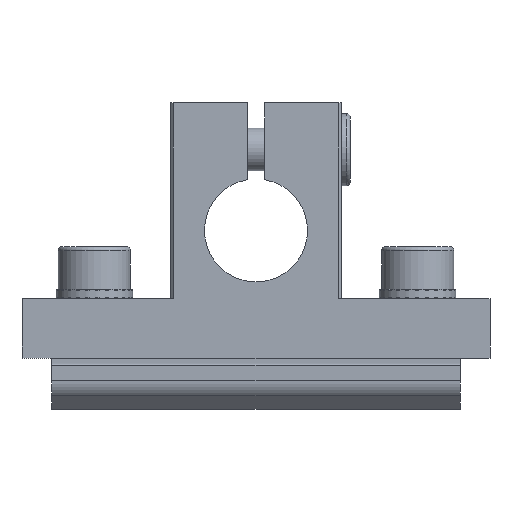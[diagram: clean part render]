
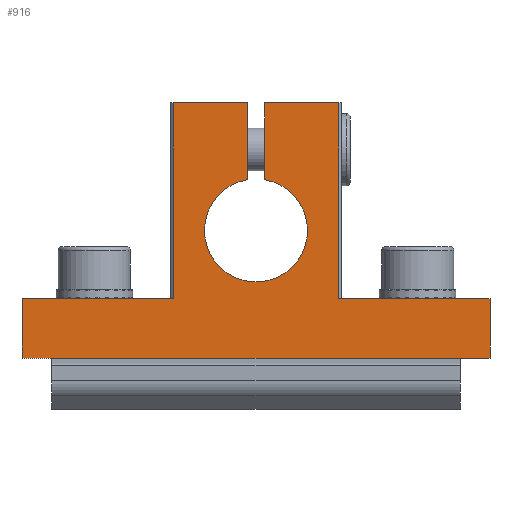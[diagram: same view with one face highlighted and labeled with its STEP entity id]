
A CAD part, front view. The second image highlights one B-rep face of the part: STEP entity #916.
In plain terms, the highlighted planar face has unit normal (0, -1, 0).
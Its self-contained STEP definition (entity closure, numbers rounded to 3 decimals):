
#916=ADVANCED_FACE('',(#1765),#1766,.F.);
#1765=FACE_OUTER_BOUND('',#2584,.T.);
#1766=PLANE('',#2585);
#2584=EDGE_LOOP('',(#5055,#5056,#5057,#5058,#5059,#5060,#5061,#5062,#5063,#5064,#5065,#5066));
#2585=AXIS2_PLACEMENT_3D('',#5067,#5068,#5069);
#5055=ORIENTED_EDGE('',*,*,#6069,.F.);
#5056=ORIENTED_EDGE('',*,*,#6113,.T.);
#5057=ORIENTED_EDGE('',*,*,#6097,.F.);
#5058=ORIENTED_EDGE('',*,*,#6080,.T.);
#5059=ORIENTED_EDGE('',*,*,#6107,.F.);
#5060=ORIENTED_EDGE('',*,*,#6093,.T.);
#5061=ORIENTED_EDGE('',*,*,#6089,.F.);
#5062=ORIENTED_EDGE('',*,*,#6120,.T.);
#5063=ORIENTED_EDGE('',*,*,#6074,.F.);
#5064=ORIENTED_EDGE('',*,*,#6125,.F.);
#5065=ORIENTED_EDGE('',*,*,#6127,.T.);
#5066=ORIENTED_EDGE('',*,*,#6128,.T.);
#5067=CARTESIAN_POINT('',(-27.5,-28.5,7.0));
#5068=DIRECTION('',(0.0,1.0,0.0));
#5069=DIRECTION('',(0.0,0.0,1.0));
#6069=EDGE_CURVE('',#7531,#7522,#7533,.T.);
#6074=EDGE_CURVE('',#7540,#7542,#7543,.T.);
#6080=EDGE_CURVE('',#7552,#7553,#7554,.T.);
#6089=EDGE_CURVE('',#7568,#7570,#7571,.T.);
#6093=EDGE_CURVE('',#7576,#7570,#7577,.T.);
#6097=EDGE_CURVE('',#7552,#7582,#7583,.T.);
#6107=EDGE_CURVE('',#7576,#7553,#7598,.F.);
#6113=EDGE_CURVE('',#7531,#7582,#7605,.T.);
#6120=EDGE_CURVE('',#7568,#7542,#7612,.T.);
#6125=EDGE_CURVE('',#7617,#7540,#7619,.T.);
#6127=EDGE_CURVE('',#7617,#7621,#7622,.T.);
#6128=EDGE_CURVE('',#7621,#7522,#7623,.T.);
#7522=VERTEX_POINT('',#9544);
#7531=VERTEX_POINT('',#9557);
#7533=LINE('',#9560,#9561);
#7540=VERTEX_POINT('',#9569);
#7542=VERTEX_POINT('',#9572);
#7543=LINE('',#9573,#9574);
#7552=VERTEX_POINT('',#9586);
#7553=VERTEX_POINT('',#9587);
#7554=LINE('',#9588,#9589);
#7568=VERTEX_POINT('',#9609);
#7570=VERTEX_POINT('',#9612);
#7571=LINE('',#9613,#9614);
#7576=VERTEX_POINT('',#9620);
#7577=LINE('',#9621,#9622);
#7582=VERTEX_POINT('',#9629);
#7583=LINE('',#9630,#9631);
#7598=CIRCLE('',#9650,6.05);
#7605=LINE('',#9659,#9660);
#7612=LINE('',#9670,#9671);
#7617=VERTEX_POINT('',#9678);
#7619=LINE('',#9681,#9682);
#7621=VERTEX_POINT('',#9684);
#7622=LINE('',#9685,#9686);
#7623=LINE('',#9687,#9688);
#9544=CARTESIAN_POINT('',(27.5,-28.5,7.0));
#9557=CARTESIAN_POINT('',(9.75,-28.5,7.0));
#9560=CARTESIAN_POINT('',(-27.5,-28.5,7.0));
#9561=VECTOR('',#10839,1.0);
#9569=CARTESIAN_POINT('',(-27.5,-28.5,7.0));
#9572=CARTESIAN_POINT('',(-9.75,-28.5,7.0));
#9573=CARTESIAN_POINT('',(-27.5,-28.5,7.0));
#9574=VECTOR('',#10845,1.0);
#9586=CARTESIAN_POINT('',(1.0,-28.5,30.0));
#9587=CARTESIAN_POINT('',(1.0,-28.5,20.967));
#9588=CARTESIAN_POINT('',(1.0,-28.5,35.0));
#9589=VECTOR('',#10852,1.0);
#9609=CARTESIAN_POINT('',(-9.75,-28.5,30.0));
#9612=CARTESIAN_POINT('',(-1.0,-28.5,30.0));
#9613=CARTESIAN_POINT('',(-11.174,-28.5,30.0));
#9614=VECTOR('',#10860,1.0);
#9620=CARTESIAN_POINT('',(-1.0,-28.5,20.967));
#9621=CARTESIAN_POINT('',(-1.0,-28.5,35.0));
#9622=VECTOR('',#10865,1.0);
#9629=CARTESIAN_POINT('',(9.75,-28.5,30.0));
#9630=CARTESIAN_POINT('',(-11.174,-28.5,30.0));
#9631=VECTOR('',#10868,1.0);
#9650=AXIS2_PLACEMENT_3D('',#10882,#10883,#10884);
#9659=CARTESIAN_POINT('',(9.75,-28.5,7.0));
#9660=VECTOR('',#10890,1.0);
#9670=CARTESIAN_POINT('',(-9.75,-28.5,7.0));
#9671=VECTOR('',#10894,1.0);
#9678=CARTESIAN_POINT('',(-27.5,-28.5,0.0));
#9681=CARTESIAN_POINT('',(-27.5,-28.5,0.0));
#9682=VECTOR('',#10898,1.0);
#9684=CARTESIAN_POINT('',(27.5,-28.5,0.0));
#9685=CARTESIAN_POINT('',(-27.5,-28.5,0.0));
#9686=VECTOR('',#10899,1.0);
#9687=CARTESIAN_POINT('',(27.5,-28.5,0.0));
#9688=VECTOR('',#10900,1.0);
#10839=DIRECTION('',(1.0,0.0,0.0));
#10845=DIRECTION('',(1.0,0.0,0.0));
#10852=DIRECTION('',(0.,0.0,-1.0));
#10860=DIRECTION('',(1.0,0.0,0.0));
#10865=DIRECTION('',(0.,0.0,1.0));
#10868=DIRECTION('',(1.0,0.0,0.0));
#10882=CARTESIAN_POINT('',(0.0,-28.5,15.0));
#10883=DIRECTION('',(0.0,1.0,0.0));
#10884=DIRECTION('',(0.0,0.0,1.0));
#10890=DIRECTION('',(0.,0.0,1.0));
#10894=DIRECTION('',(0.0,0.0,-1.0));
#10898=DIRECTION('',(0.0,0.0,1.0));
#10899=DIRECTION('',(1.0,0.0,0.0));
#10900=DIRECTION('',(0.0,0.0,1.0));
